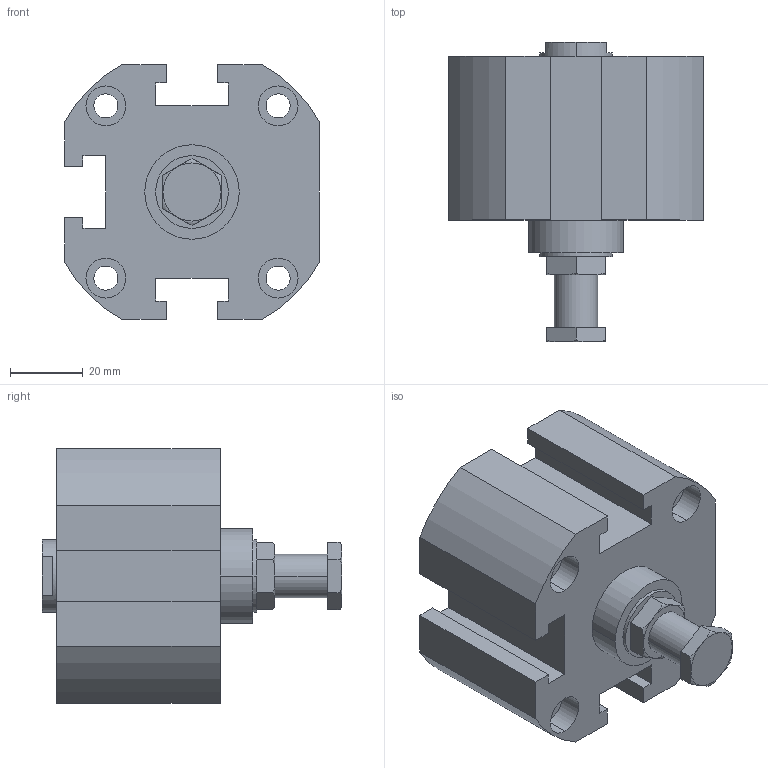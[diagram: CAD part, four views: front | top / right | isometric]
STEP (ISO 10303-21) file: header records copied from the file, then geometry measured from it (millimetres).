
FILE_DESCRIPTION (( 'STEP AP203' ), '1' );
FILE_NAME ('XGA2-50-10.STEP', '2016-05-24T02:40:52', ( '' ), ( '' ), 'SwSTEP 2.0', 'SolidWorks 2014', '' );
FILE_SCHEMA (( 'CONFIG_CONTROL_DESIGN' ));
Length unit declared in the file: millimetre
Products named in the file (3): X#A2-50-H; XG#2-50-10; XGA2-50-10
Assembly tree (2 placements, depth 2):
  XGA2-50-10
    XG#2-50-10
    X#A2-50-H
Bounding box: 70 x 82.5 x 70 mm (x, y, z)
Volume: 173477 mm3; surface area: 32584.5 mm2
Topology: 2 solids, 2 shells, 150 faces, 361 edges, 231 vertices
Faces by surface type: plane 68, cylinder 60, torus 12, cone 10
Entity records: 4852 total; most frequent: CARTESIAN_POINT 973, DIRECTION 785, ORIENTED_EDGE 710, EDGE_CURVE 355, AXIS2_PLACEMENT_3D 299, VERTEX_POINT 231, VECTOR 187, LINE 187
